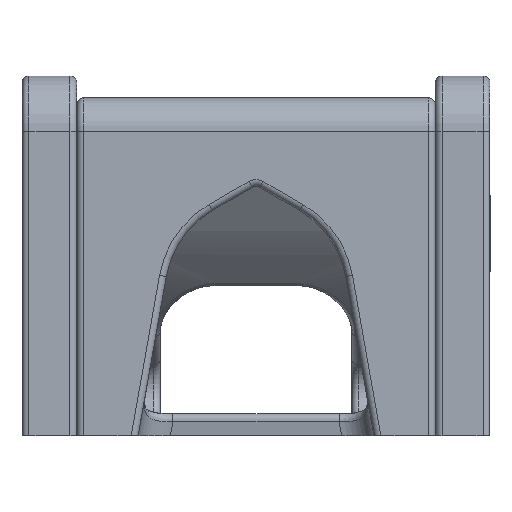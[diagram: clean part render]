
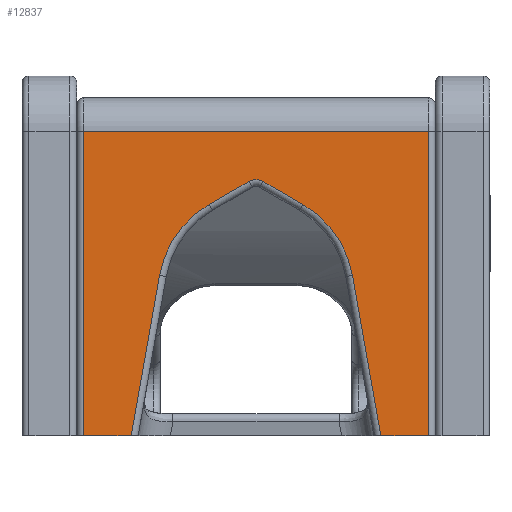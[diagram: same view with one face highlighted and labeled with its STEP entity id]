
A CAD part, front view. The second image highlights one B-rep face of the part: STEP entity #12837.
In plain terms, the highlighted planar face has unit normal (0, -1, 0).
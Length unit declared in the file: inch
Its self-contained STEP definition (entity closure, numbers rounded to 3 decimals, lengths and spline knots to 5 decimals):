
#442=PLANE('',#14693);
#1810=FACE_OUTER_BOUND('',#2625,.T.);
#2625=EDGE_LOOP('',(#12039,#12040,#12041,#12042,#12043,#12044,#12045,#12046,
#12047,#12048,#12049,#12050));
#3539=CIRCLE('',#14343,0.1);
#3543=CIRCLE('',#14349,0.75);
#3547=CIRCLE('',#14358,0.75);
#4246=LINE('',#25896,#4890);
#4248=LINE('',#25908,#4892);
#4251=LINE('',#25918,#4895);
#4252=LINE('',#25926,#4896);
#4268=LINE('',#26171,#4912);
#4281=LINE('',#26231,#4925);
#4347=LINE('',#27793,#4991);
#4349=LINE('',#27843,#4993);
#4381=LINE('',#27963,#5025);
#4890=VECTOR('',#18191,0.3937);
#4892=VECTOR('',#18205,0.3937);
#4895=VECTOR('',#18214,0.3937);
#4896=VECTOR('',#18225,0.3937);
#4912=VECTOR('',#18305,0.3937);
#4925=VECTOR('',#18354,0.3937);
#4991=VECTOR('',#18774,0.3937);
#4993=VECTOR('',#18832,0.3937);
#5025=VECTOR('',#19018,0.3937);
#5982=VERTEX_POINT('',#25887);
#5983=VERTEX_POINT('',#25889);
#5985=VERTEX_POINT('',#25894);
#5987=VERTEX_POINT('',#25900);
#5989=VERTEX_POINT('',#25906);
#5990=VERTEX_POINT('',#25911);
#5993=VERTEX_POINT('',#25916);
#5995=VERTEX_POINT('',#25921);
#6018=VERTEX_POINT('',#26170);
#6047=VERTEX_POINT('',#26229);
#6165=VERTEX_POINT('',#27792);
#6171=VERTEX_POINT('',#27841);
#7769=EDGE_CURVE('',#5982,#5983,#3539,.T.);
#7772=EDGE_CURVE('',#5985,#5982,#4246,.T.);
#7775=EDGE_CURVE('',#5987,#5985,#3543,.T.);
#7778=EDGE_CURVE('',#5989,#5987,#4248,.T.);
#7783=EDGE_CURVE('',#5993,#5990,#4251,.T.);
#7785=EDGE_CURVE('',#5995,#5993,#3547,.T.);
#7787=EDGE_CURVE('',#5983,#5995,#4252,.T.);
#7827=EDGE_CURVE('',#5990,#6018,#4268,.T.);
#7858=EDGE_CURVE('',#6047,#5989,#4281,.T.);
#8062=EDGE_CURVE('',#6018,#6165,#4347,.T.);
#8082=EDGE_CURVE('',#6171,#6047,#4349,.T.);
#8138=EDGE_CURVE('',#6171,#6165,#4381,.T.);
#12039=ORIENTED_EDGE('',*,*,#7778,.F.);
#12040=ORIENTED_EDGE('',*,*,#7858,.F.);
#12041=ORIENTED_EDGE('',*,*,#8082,.F.);
#12042=ORIENTED_EDGE('',*,*,#8138,.T.);
#12043=ORIENTED_EDGE('',*,*,#8062,.F.);
#12044=ORIENTED_EDGE('',*,*,#7827,.F.);
#12045=ORIENTED_EDGE('',*,*,#7783,.F.);
#12046=ORIENTED_EDGE('',*,*,#7785,.F.);
#12047=ORIENTED_EDGE('',*,*,#7787,.F.);
#12048=ORIENTED_EDGE('',*,*,#7769,.F.);
#12049=ORIENTED_EDGE('',*,*,#7772,.F.);
#12050=ORIENTED_EDGE('',*,*,#7775,.F.);
#12837=ADVANCED_FACE('',(#1810),#442,.T.);
#14343=AXIS2_PLACEMENT_3D('',#25890,#18183,#18184);
#14349=AXIS2_PLACEMENT_3D('',#25902,#18197,#18198);
#14358=AXIS2_PLACEMENT_3D('',#25923,#18219,#18220);
#14693=AXIS2_PLACEMENT_3D('',#27964,#19019,#19020);
#18183=DIRECTION('center_axis',(0.,-1.,0.));
#18184=DIRECTION('ref_axis',(0.,0.,1.));
#18191=DIRECTION('',(-0.866,0.,0.5));
#18197=DIRECTION('center_axis',(0.,-1.,0.));
#18198=DIRECTION('ref_axis',(0.819,0.,0.574));
#18205=DIRECTION('',(-0.174,0.,0.985));
#18214=DIRECTION('',(-0.174,0.,-0.985));
#18219=DIRECTION('center_axis',(0.,-1.,0.));
#18220=DIRECTION('ref_axis',(-0.819,0.,0.574));
#18225=DIRECTION('',(-0.866,0.,-0.5));
#18305=DIRECTION('',(-1.,0.,0.));
#18354=DIRECTION('',(-1.,0.,0.));
#18774=DIRECTION('',(0.,0.,1.));
#18832=DIRECTION('',(0.,0.,-1.));
#19018=DIRECTION('',(-1.,0.,0.));
#19019=DIRECTION('center_axis',(0.,-1.,0.));
#19020=DIRECTION('ref_axis',(0.,0.,
1.));
#25887=CARTESIAN_POINT('',(1.3625,1.20011,-14.20184));
#25889=CARTESIAN_POINT('',(1.2625,1.20011,-14.20184));
#25890=CARTESIAN_POINT('Origin',(1.3125,1.20011,-14.28844));
#25894=CARTESIAN_POINT('',(1.65498,1.20011,-14.3707));
#25896=CARTESIAN_POINT('',(2.22682,1.20011,-14.70086));
#25900=CARTESIAN_POINT('',(2.01858,1.20011,-14.88999));
#25902=CARTESIAN_POINT('Origin',(1.27998,1.20011,-15.02022));
#25906=CARTESIAN_POINT('',(2.22577,1.20011,-16.065));
#25908=CARTESIAN_POINT('',(2.1282,1.20011,-15.51163));
#25911=CARTESIAN_POINT('',(0.39923,1.20011,-16.065));
#25916=CARTESIAN_POINT('',(0.60642,1.20011,-14.88999));
#25918=CARTESIAN_POINT('',(0.43355,1.20011,-15.87034));
#25921=CARTESIAN_POINT('',(0.97002,1.20011,-14.3707));
#25923=CARTESIAN_POINT('Origin',(1.34502,1.20011,-15.02022));
#25926=CARTESIAN_POINT('',(1.22381,1.20011,-14.22418));
#26170=CARTESIAN_POINT('',(0.05,1.20011,-16.065));
#26171=CARTESIAN_POINT('',(2.625,1.20011,-16.065));
#26229=CARTESIAN_POINT('',(2.575,1.20011,-16.065));
#26231=CARTESIAN_POINT('',(2.625,1.20011,-16.065));
#27792=CARTESIAN_POINT('',(0.05,1.20011,-13.83985));
#27793=CARTESIAN_POINT('',(0.05,1.20011,-13.9775));
#27841=CARTESIAN_POINT('',(2.575,1.20011,-13.83985));
#27843=CARTESIAN_POINT('',(2.575,1.20011,-13.9775));
#27963=CARTESIAN_POINT('',(2.625,1.20011,-13.83985));
#27964=CARTESIAN_POINT('Origin',(2.625,1.20011,-16.065));
